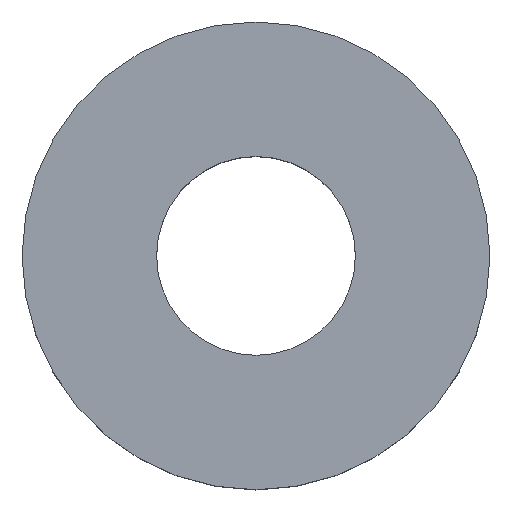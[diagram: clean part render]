
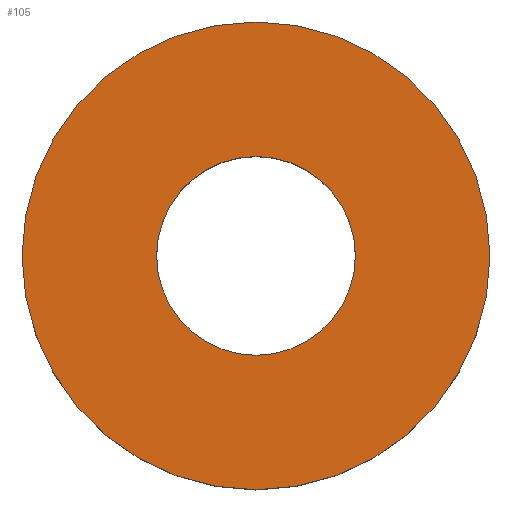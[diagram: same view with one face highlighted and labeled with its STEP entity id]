
A CAD part, top view. The second image highlights one B-rep face of the part: STEP entity #105.
In plain terms, the highlighted planar face has unit normal (0, 0, 1).
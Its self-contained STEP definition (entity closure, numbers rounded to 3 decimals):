
#21 = EDGE_CURVE('',#22,#22,#24,.T.);
#22 = VERTEX_POINT('',#23);
#23 = CARTESIAN_POINT('',(4.,0.,0.));
#24 = SURFACE_CURVE('',#25,(#30,#42),.PCURVE_S1.);
#25 = CIRCLE('',#26,4.);
#26 = AXIS2_PLACEMENT_3D('',#27,#28,#29);
#27 = CARTESIAN_POINT('',(0.,0.,0.));
#28 = DIRECTION('',(0.,0.,1.));
#29 = DIRECTION('',(1.,0.,-0.));
#30 = PCURVE('',#31,#36);
#31 = CYLINDRICAL_SURFACE('',#32,4.);
#32 = AXIS2_PLACEMENT_3D('',#33,#34,#35);
#33 = CARTESIAN_POINT('',(0.,0.,-2.));
#34 = DIRECTION('',(0.,0.,1.));
#35 = DIRECTION('',(1.,0.,-0.));
#36 = DEFINITIONAL_REPRESENTATION('',(#37),#41);
#37 = LINE('',#38,#39);
#38 = CARTESIAN_POINT('',(0.,2.));
#39 = VECTOR('',#40,1.);
#40 = DIRECTION('',(1.,0.));
#41 = ( GEOMETRIC_REPRESENTATION_CONTEXT(2) 
PARAMETRIC_REPRESENTATION_CONTEXT() REPRESENTATION_CONTEXT('2D SPACE',''
  ) );
#42 = PCURVE('',#43,#48);
#43 = PLANE('',#44);
#44 = AXIS2_PLACEMENT_3D('',#45,#46,#47);
#45 = CARTESIAN_POINT('',(0.,0.,0.));
#46 = DIRECTION('',(0.,0.,1.));
#47 = DIRECTION('',(1.,0.,-0.));
#48 = DEFINITIONAL_REPRESENTATION('',(#49),#53);
#49 = CIRCLE('',#50,4.);
#50 = AXIS2_PLACEMENT_2D('',#51,#52);
#51 = CARTESIAN_POINT('',(0.,0.));
#52 = DIRECTION('',(1.,0.));
#53 = ( GEOMETRIC_REPRESENTATION_CONTEXT(2) 
PARAMETRIC_REPRESENTATION_CONTEXT() REPRESENTATION_CONTEXT('2D SPACE',''
  ) );
#105 = ADVANCED_FACE('',(#106,#109),#43,.T.);
#106 = FACE_BOUND('',#107,.T.);
#107 = EDGE_LOOP('',(#108));
#108 = ORIENTED_EDGE('',*,*,#21,.T.);
#109 = FACE_BOUND('',#110,.T.);
#110 = EDGE_LOOP('',(#111));
#111 = ORIENTED_EDGE('',*,*,#112,.F.);
#112 = EDGE_CURVE('',#113,#113,#115,.T.);
#113 = VERTEX_POINT('',#114);
#114 = CARTESIAN_POINT('',(1.7,0.,0.));
#115 = SURFACE_CURVE('',#116,(#121,#128),.PCURVE_S1.);
#116 = CIRCLE('',#117,1.7);
#117 = AXIS2_PLACEMENT_3D('',#118,#119,#120);
#118 = CARTESIAN_POINT('',(0.,0.,0.));
#119 = DIRECTION('',(0.,0.,1.));
#120 = DIRECTION('',(1.,0.,-0.));
#121 = PCURVE('',#43,#122);
#122 = DEFINITIONAL_REPRESENTATION('',(#123),#127);
#123 = CIRCLE('',#124,1.7);
#124 = AXIS2_PLACEMENT_2D('',#125,#126);
#125 = CARTESIAN_POINT('',(0.,0.));
#126 = DIRECTION('',(1.,0.));
#127 = ( GEOMETRIC_REPRESENTATION_CONTEXT(2) 
PARAMETRIC_REPRESENTATION_CONTEXT() REPRESENTATION_CONTEXT('2D SPACE',''
  ) );
#128 = PCURVE('',#129,#134);
#129 = CYLINDRICAL_SURFACE('',#130,1.7);
#130 = AXIS2_PLACEMENT_3D('',#131,#132,#133);
#131 = CARTESIAN_POINT('',(0.,0.,-3.));
#132 = DIRECTION('',(0.,0.,1.));
#133 = DIRECTION('',(1.,0.,-0.));
#134 = DEFINITIONAL_REPRESENTATION('',(#135),#139);
#135 = LINE('',#136,#137);
#136 = CARTESIAN_POINT('',(0.,3.));
#137 = VECTOR('',#138,1.);
#138 = DIRECTION('',(1.,0.));
#139 = ( GEOMETRIC_REPRESENTATION_CONTEXT(2) 
PARAMETRIC_REPRESENTATION_CONTEXT() REPRESENTATION_CONTEXT('2D SPACE',''
  ) );
